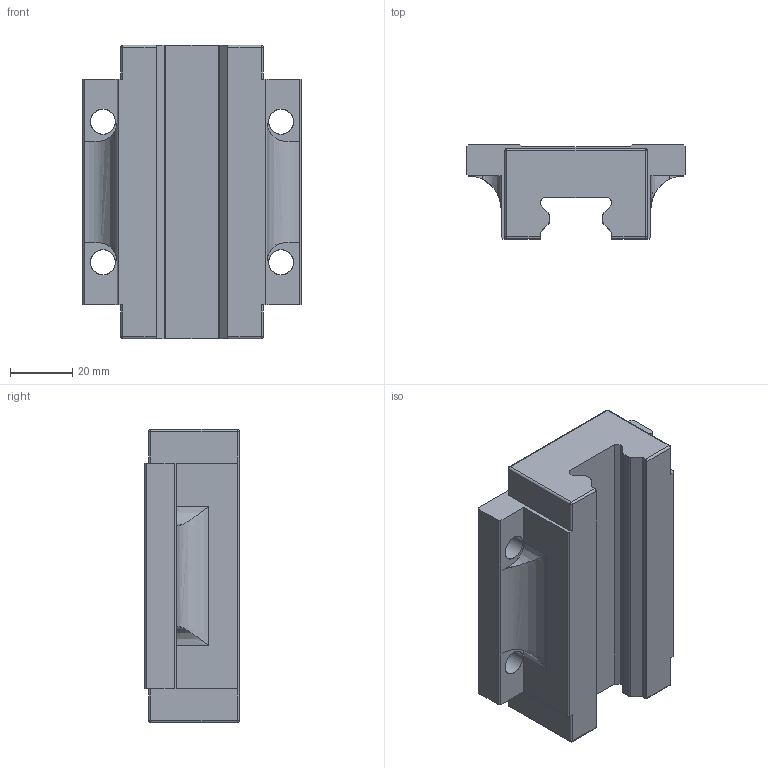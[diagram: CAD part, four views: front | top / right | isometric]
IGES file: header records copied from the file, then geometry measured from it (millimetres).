
Start section: SolidWorks IGES file using analytic representation for surfaces
Global section: file name: C:\Users\IanO\Desktop\Temp File\GENERAL\L1016_v2\L1016.F-BC_v2\L1016.F-BC_v2_20190612_IGES\L1016.F25-L-BC.igs; native system: SolidWorks 2017; preprocessor: SolidWorks 2017; author: IanO; date: 190613.152211; units: millimetre
Bounding box: 70 x 30.2 x 93.9 mm (x, y, z)
Surface area: 23380.6 mm2 (no closed solid volume)
Topology: 0 solids, 0 shells, 92 faces, 892 edges, 884 vertices
Faces by surface type: bspline 48, revolution 44
